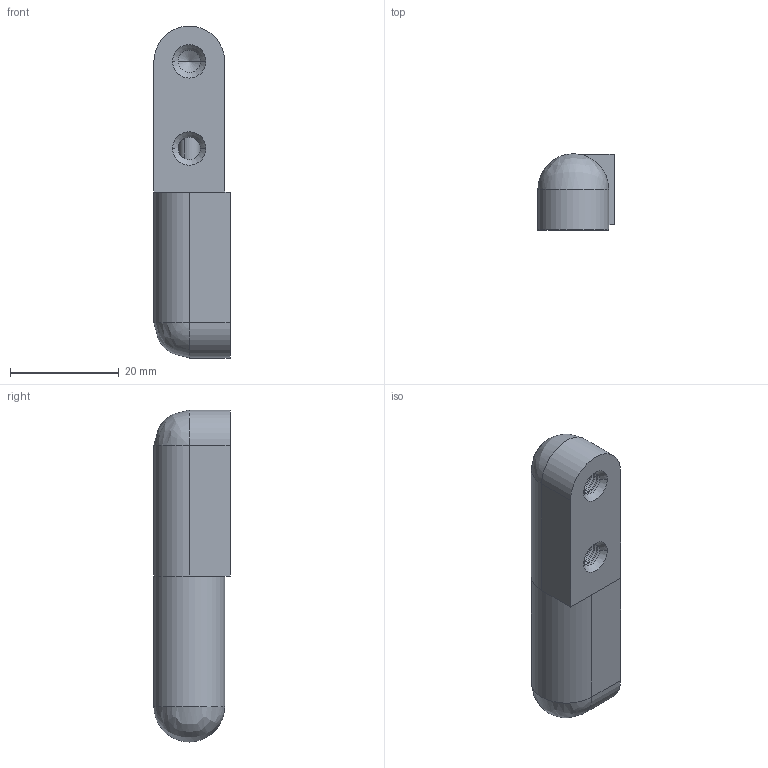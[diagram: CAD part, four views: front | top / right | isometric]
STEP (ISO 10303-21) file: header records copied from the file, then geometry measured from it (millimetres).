
FILE_DESCRIPTION (( 'STEP AP214' ), '1' );
FILE_NAME ('321330_Industrilas.step', '2025-05-21T20:27:36', ( '' ), ( '' ), 'SwSTEP 2.0', 'SolidWorks 2010', '' );
FILE_SCHEMA (( 'AUTOMOTIVE_DESIGN' ));
Length unit declared in the file: millimetre
Products named in the file (3): 32133003; 32133001_32133001; 321330_Industrilas
Assembly tree (3 placements, depth 2):
  321330_Industrilas
    32133001_32133001  x2
    32133003
Bounding box: 14 x 14 x 61 mm (x, y, z)
Volume: 8685.9 mm3; surface area: 5181.8 mm2
Topology: 3 solids, 3 shells, 248 faces, 622 edges, 378 vertices
Faces by surface type: cone 150, cylinder 80, plane 16, bspline 2
Entity records: 4141 total; most frequent: DIRECTION 778, CARTESIAN_POINT 747, ORIENTED_EDGE 654, AXIS2_PLACEMENT_3D 327, EDGE_CURVE 327, VERTEX_POINT 202, CIRCLE 188, EDGE_LOOP 141
